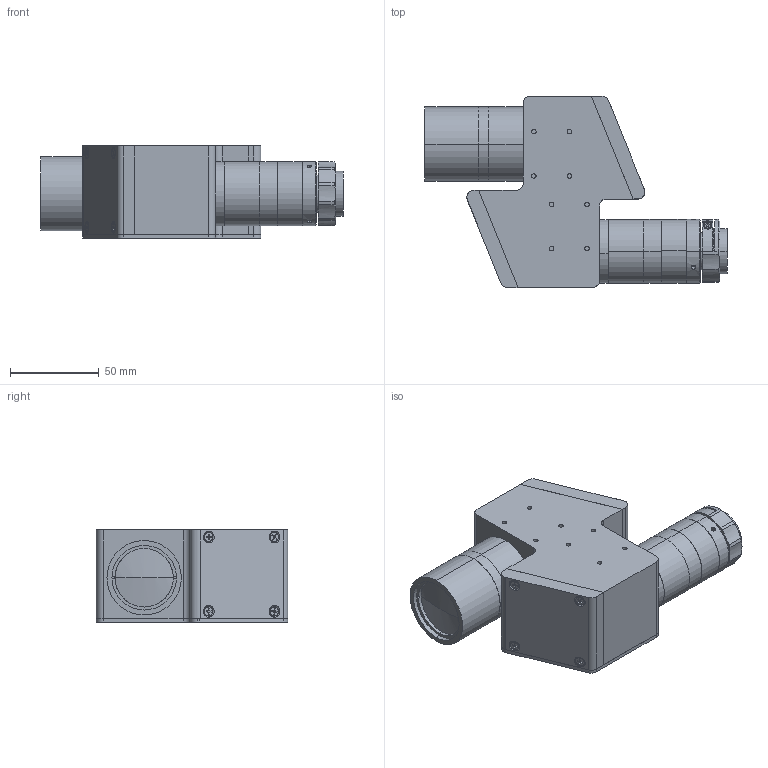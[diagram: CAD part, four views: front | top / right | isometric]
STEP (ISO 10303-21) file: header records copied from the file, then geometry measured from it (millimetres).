
FILE_DESCRIPTION (( 'STEP AP203' ), '1' );
FILE_NAME ('XF-MH085X317.STEP', '2020-08-24T07:16:28', ( 'canrill-02' ), ( '' ), 'SwSTEP 2.0', 'SolidWorks 2014', '' );
FILE_SCHEMA (( 'CONFIG_CONTROL_DESIGN' ));
Length unit declared in the file: millimetre
Products named in the file (1): XF-MH085X317
Bounding box: 170.47 x 108 x 52 mm (x, y, z)
Surface area: 58045.8 mm2 (no closed solid volume)
Topology: 0 solids, 32 shells, 413 faces, 1312 edges, 917 vertices
Faces by surface type: plane 215, cylinder 153, cone 41, sphere 2, torus 2
Entity records: 14849 total; most frequent: CARTESIAN_POINT 2962, DIRECTION 2590, ORIENTED_EDGE 2147, EDGE_CURVE 1310, VERTEX_POINT 917, AXIS2_PLACEMENT_3D 889, VECTOR 812, LINE 812
